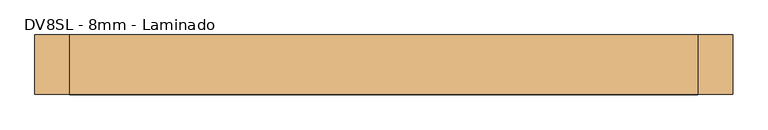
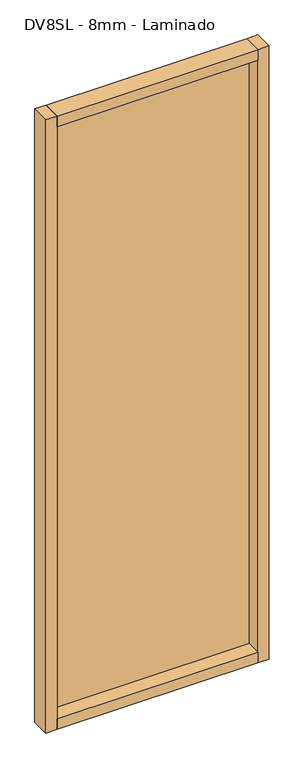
"""IFC4 building model written with IfcOpenShell, lengths in millimetres: door geometry, Mobiliário_Mobiliário de Escritório_Painel Vidro Simples - DVST e DVSL (Completo)_Marelli : DV8SL - 8mm - Laminado."""

from ifc_helpers import new_model, si_unit, frame, origin, origin_with_axes, place, context, project, spatial, polyline, outline, extrude, source, transform, mapped, element, save


def dv8sl_8mm_laminado_6f1ccb51(model_context):
    return source(origin(), model_context, "Body", "SweptSolid", [
        extrude(outline(polyline([(450.0, 42.5), (450.0, -42.5), (-450.0, -42.5), (-450.0, 42.5), (450.0, 42.5)])), origin_with_axes(), (0.0, 0.0, 1.0), 50.0),
        extrude(outline(polyline([(450.0, 42.5), (450.0, -42.5), (-450.0, -42.5), (-450.0, 42.5), (450.0, 42.5)])), frame((0.0, 0.0, 2850.0), z_axis=(0.0, 0.0, 1.0), x_axis=(1.0, 0.0, 0.0)), (0.0, 0.0, 1.0), 50.0),
        extrude(outline(polyline([(-500.0, -42.5), (-500.0, 42.5), (-450.0, 42.5), (-450.0, -42.5), (-500.0, -42.5)])), origin_with_axes(), (0.0, 0.0, 1.0), 2900.0),
        extrude(outline(polyline([(500.0, -42.5), (450.0, -42.5), (450.0, 42.5), (500.0, 42.5), (500.0, -42.5)])), origin_with_axes(), (0.0, 0.0, 1.0), 2900.0),
        extrude(outline(polyline([(450.0, 33.1), (450.0, 25.1), (-450.0, 25.1), (-450.0, 33.1), (450.0, 33.1)])), frame((0.0, 0.0, 50.0), z_axis=(0.0, 0.0, 1.0), x_axis=(1.0, 0.0, 0.0)), (0.0, 0.0, 1.0), 2800.0),
    ])


if __name__ == "__main__":
    model = new_model("IFC4")
    model_context = context("Model", 3, world=origin())
    ifc_project = project(units=[si_unit("LENGTHUNIT", "METRE", prefix="MILLI")], contexts=[model_context])
    site = spatial("IfcSite", under=ifc_project)
    building = spatial("IfcBuilding", under=site)
    placement = place(None, origin())
    dv8sl_8mm_laminado_shape = dv8sl_8mm_laminado_6f1ccb51(model_context)
    element("IfcDoor", 1, ObjectType="Mobiliário_Mobiliário de Escritório_Painel Vidro Simples - DVST e DVSL (Completo)_Marelli : DV8SL - 8mm - Laminado", at=placement, inside=building, context=model_context, shape_type="MappedRepresentation", body=[
        mapped(dv8sl_8mm_laminado_shape, transform((0.0, 0.0, 0.0), x_axis=(1.0, 0.0, 0.0), y_axis=(0.0, 1.0, 0.0), z_axis=(0.0, 0.0, 1.0))),
    ])
    save(model, "model.ifc")
